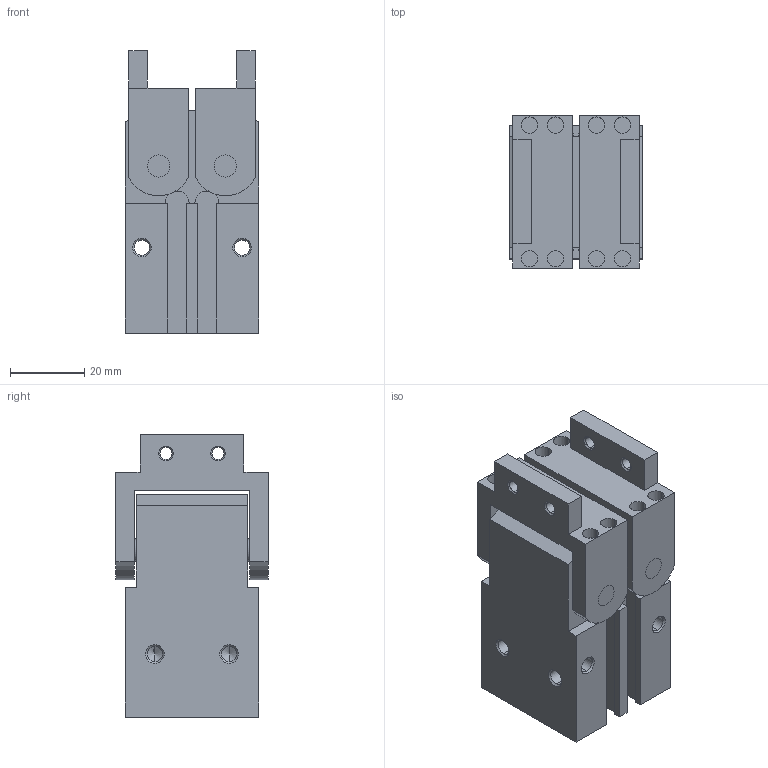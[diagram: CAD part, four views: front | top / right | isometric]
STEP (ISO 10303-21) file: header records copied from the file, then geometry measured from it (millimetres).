
FILE_DESCRIPTION (( 'STEP AP203' ), '1' );
FILE_NAME ('CHW2-20D1.STEP', '2020-04-02T13:33:26', ( '' ), ( '' ), 'SwSTEP 2.0', 'SolidWorks 2019', '' );
FILE_SCHEMA (( 'CONFIG_CONTROL_DESIGN' ));
Length unit declared in the file: millimetre
Products named in the file (1): CHW2-20D1
Bounding box: 36 x 41 x 76 mm (x, y, z)
Volume: 79900.4 mm3; surface area: 24183.3 mm2
Topology: 3 solids, 3 shells, 217 faces, 526 edges, 326 vertices
Faces by surface type: plane 89, cylinder 80, cone 48
Entity records: 6357 total; most frequent: DIRECTION 1146, CARTESIAN_POINT 1058, ORIENTED_EDGE 1028, EDGE_CURVE 514, AXIS2_PLACEMENT_3D 414, VERTEX_POINT 326, LINE 318, VECTOR 318
